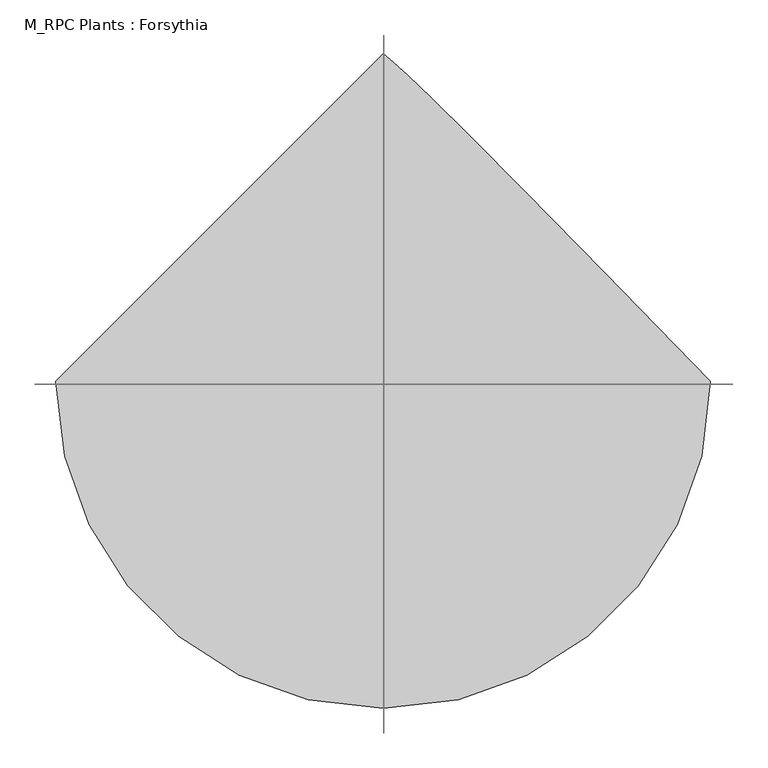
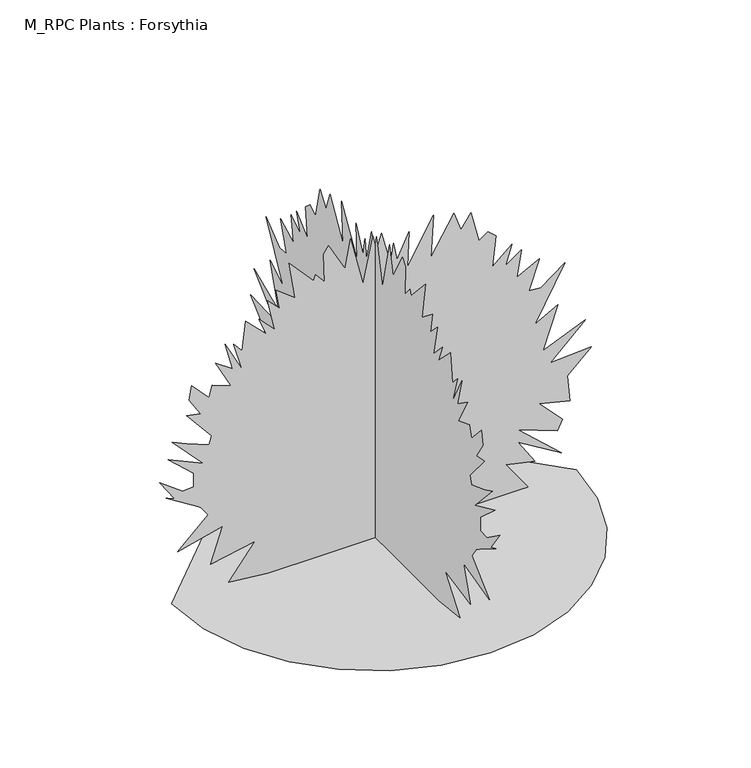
"""IFC4 building model written with IfcOpenShell, lengths in millimetres: proxy geometry, M_RPC Plants : Forsythia."""

from ifc_helpers import new_model, si_unit, origin, place, context, project, spatial, triangles, source, transform, mapped, element, save


def m_rpc_plants_forsythia_3ae10d36(model_context):
    return source(origin(), model_context, "Body", "Tessellation", [
        triangles([(-1519.5040535, 0.0, 0.0002833), (-1479.3336857, -348.1690825, 0.0002833), (-1364.9291862, -667.9078508, 0.0002833), (-1185.447191, -950.0545097, 0.0002833), (-950.0545097, -1185.447191, 0.0002833), (-667.9078508, -1364.9291862, 0.0002833), (-348.1690825, -1479.3336857, 0.0002833), (6.64e-05, -1519.5040535, 0.0002833), (348.1690825, -1479.3336857, 0.0002833), (667.9078508, -1364.9291862, 0.0002833), (950.0545097, -1185.447191, 0.0002833), (1185.447191, -950.0545097, 0.0002833), (1364.9291862, -667.9078508, 0.0002833), (1479.3336857, -348.1690825, 0.0002833), (1519.5040535, 0.0001328, 0.0002833), (1025.698439, 506.5233338, 0.0002833), (659.6172232, 879.4549673, 0.0002833), (399.9699903, 1141.05804, 0.0002833), (225.4722113, 1313.5981625, 0.0002833), (114.8360501, 1419.3438881, 0.0002833), (46.774248, 1480.5555588, 0.0002833), (-0.0001993, 1519.5040535, 0.0002833), (-792.3428427, -13.4822871, 0.037948), (-1099.2418425, -13.4822621, 31.9687972), (-901.0348274, -13.4822871, 287.7194292), (-1233.5117718, -13.4822871, 223.7813261), (-1143.9993576, -13.4822871, 492.3196223), (-1482.8669003, -13.4822871, 409.2003862), (-1252.691415, -13.482312, 620.1937574), (-1310.2352863, -13.482312, 703.3130299), (-1565.9861, -13.482312, 863.1557442), (-1502.0490143, -13.482312, 837.5804157), (-1617.1342861, -13.482312, 1003.8188152), (-1444.505143, -13.482312, 875.9446438), (-1361.3859432, -13.482312, 882.3378582), (-1361.3859432, -13.482312, 991.0299156), (-1553.1972004, -13.4823382, 1163.6615295), (-1291.0531723, -13.4823382, 1042.1805725), (-1521.2286575, -13.4823382, 1291.5383171), (-1412.5366001, -13.4823382, 1240.3875149), (-1246.2982006, -13.4823382, 1176.4505018), (-1227.1160866, -13.4823382, 1240.3875149), (-1412.5366001, -13.4823382, 1464.1673149), (-1310.2352863, -13.4823382, 1444.987817), (-1393.3544861, -13.4823631, 1579.2552029), (-1374.1723721, -13.4823631, 1687.9497311), (-1246.2982006, -13.4823631, 1547.28666), (-1220.7228722, -13.4823631, 1636.7990742), (-1080.0597284, -13.4823631, 1585.6482719), (-1195.147471, -13.4823631, 1803.0374737), (-1067.2732996, -13.4823631, 1713.5250595), (-1124.8171709, -13.4823881, 1930.9116451), (-996.9429995, -13.4823631, 1687.9497311), (-1060.8800852, -13.4823881, 1905.3363167), (-996.9429995, -13.4823631, 1835.0060165), (-971.367671, -13.4823881, 2058.7858166), (-817.9181711, -13.4823881, 1905.3363167), (-869.0663572, -13.4823881, 2039.6061733), (-753.9785419, -13.4823881, 1918.1252163), (-805.1292715, -13.4823881, 2161.0871304), (-715.6167847, -13.4823881, 2071.5747162), (-741.1921858, -13.4823881, 2225.0242161), (-600.5290421, -13.4823881, 2116.3296879), (-645.2865572, -13.4824142, 2404.0490444), (-459.8659347, -13.4823881, 2199.4488876), (-447.0795422, -13.4823881, 2244.2063301), (-379.2689283, -13.4823881, 2162.8804802), (-385.6646862, -13.4824142, 2386.6602802), (-347.290248, -13.4824142, 2438.4078484), (-223.176294, -13.4824142, 2213.9981449), (-182.9654127, -13.4823631, 2435.1743248), (-90.8322191, -13.4823631, 2047.6376598), (-12.3045871, -13.4824142, 2397.6559753), (13.2704245, -13.4823881, 2276.174873), (51.6330312, -13.4824142, 2397.6559753), (115.5706256, -13.4823881, 2135.5118019), (141.1454544, -13.4823881, 2288.9613018), (166.7205467, -13.4823881, 2148.2982307), (256.2334877, -13.4824142, 2340.1119587), (243.445551, -13.4823881, 2065.1815018), (441.6515305, -13.4824142, 2404.0490444), (422.4693801, -13.4823881, 2077.9679306), (595.1010303, -13.4824142, 2365.6874325), (646.2517599, -13.4823881, 2218.6310017), (722.9777452, -13.4824142, 2327.3230591), (780.5216166, -13.4823881, 2084.361145), (850.8519167, -13.4823881, 2129.1185875), (908.395788, -13.4823881, 2077.9679306), (882.8204596, -13.4823631, 1841.399231), (1029.876745, -13.4823881, 1969.2734024), (978.7260881, -13.4823631, 1815.8239025), (1100.2070452, -13.4823881, 1898.9431023), (1068.2385023, -13.4823631, 1694.3429455), (1234.4769745, -13.4823631, 1783.8553596), (1157.7509165, -13.4823631, 1553.6797291), (1247.2634033, -13.4823631, 1547.28666), (1426.2882317, -13.4823631, 1681.5565166), (1202.5084316, -13.4823382, 1272.3560577), (1375.1400455, -13.4823382, 1368.2616863), (1260.0523029, -13.4823382, 1042.1805725), (1579.7377316, -13.4823382, 1176.4505018), (1317.5961742, -13.482312, 927.0928299), (1624.495174, -13.482312, 946.2749439), (1445.4703457, -13.482312, 780.0364717), (1464.6524597, -13.4822871, 575.436315), (1234.4769745, -13.482312, 632.9801863), (1407.1085884, -13.4822871, 447.5621435), (1368.7443604, -13.4822871, 370.838629), (1074.6317167, -13.4822871, 479.5306864), (1400.7129032, -13.4822871, 185.418824), (1074.6317167, -13.4822871, 383.6250578), (1202.5084316, -13.4822871, 185.418824), (985.1193026, -13.4822871, 236.568736), (1151.4898161, -13.4822871, 0.0386752), (19.664159, -13.4822621, 0.0001234), (3.6800653, -809.5031324, 0.0378489), (3.68004, -1116.4046757, 31.9687972), (3.6800653, -918.1977333, 287.7194292), (3.6800653, -1250.6720615, 223.7813261), (3.6800653, -1161.1596474, 492.3196223), (3.6800653, -1500.0298061, 409.2003862), (3.6800653, -1269.8541756, 620.1937574), (3.6800653, -1327.3980469, 703.3130299), (3.6800908, -1583.1463898, 863.1557442), (3.6800908, -1519.209304, 837.5804157), (3.6800908, -1634.2970467, 1003.8188152), (3.6800908, -1461.6654327, 875.9446438), (3.6800908, -1378.5487038, 882.3378582), (3.6800908, -1378.5487038, 991.0299156), (3.6800908, -1570.3599609, 1163.6615295), (3.6800908, -1308.2159328, 1042.1805725), (3.6800908, -1538.3914181, 1291.5383171), (3.6800908, -1429.6968899, 1240.3875149), (3.6800908, -1263.4609612, 1176.4505018), (3.6800908, -1244.2788471, 1240.3875149), (3.6800908, -1429.6968899, 1464.1673149), (3.6800908, -1327.3980469, 1444.987817), (3.6800908, -1410.5172466, 1579.2552029), (3.6801161, -1391.3351326, 1687.9497311), (3.6800908, -1263.4609612, 1547.28666), (3.6800908, -1237.8856327, 1636.7990742), (3.6800908, -1097.2225616, 1585.6508881), (3.6801161, -1212.3103043, 1803.0374737), (3.6800908, -1084.4361328, 1713.5250595), (3.6801161, -1141.9800041, 1930.9116451), (3.6800908, -1014.1032892, 1687.9497311), (3.6801161, -1078.0403749, 1905.3363167), (3.6800908, -1014.1032892, 1835.0060165), (3.6801161, -988.5305042, 2058.7858166), (3.6800908, -835.0784609, 1905.3363167), (3.6801161, -886.2291904, 2039.6061733), (3.6800908, -771.1413752, 1918.1252163), (3.6801161, -822.2921047, 2161.0871304), (3.6801161, -732.7796179, 2071.5747162), (3.6801161, -758.355019, 2225.0242161), (3.6801161, -617.6918753, 2116.3296879), (3.6801161, -662.446847, 2404.0490444), (3.6801161, -477.0287679, 2199.4488876), (3.6801161, -464.2423754, 2244.2063301), (3.6801161, -396.4317616, 2162.8804802), (3.6801161, -402.824976, 2386.6602802), (3.6801161, -364.4530812, 2438.4078484), (3.6801161, -240.3386185, 2213.9981449), (3.6800653, -200.1277554, 2435.1743248), (3.6800653, -107.994798, 2047.640276), (3.6801161, -29.4668878, 2397.6559753), (3.6800908, -3.8919275, 2276.174873), (3.6801161, 34.4707044, 2397.6559753), (3.6800908, 98.408301, 2135.5118019), (3.6800908, 123.9831299, 2288.9613018), (3.6800908, 149.5579678, 2148.3008469), (3.6800908, 239.0706363, 2340.1119587), (3.6800908, 226.2832264, 2065.1815018), (3.6800908, 424.4886972, 2404.0490444), (3.6800908, 405.3090903, 2077.9679306), (3.6800908, 577.9381971, 2365.6874325), (3.6800908, 629.0889267, 2218.6310017), (3.6800908, 705.814912, 2327.3256752), (3.6800908, 763.3587833, 2084.361145), (3.6800908, 833.6890835, 2129.1185875), (3.6800908, 891.2329548, 2077.9679306), (3.6800653, 865.6576263, 1841.399231), (3.6800653, 1012.7139118, 1969.2734024), (3.6800653, 961.5632549, 1815.8239025), (3.6800653, 1083.044212, 1898.9431023), (3.6800653, 1051.0756691, 1694.3429455), (3.6800653, 1217.3141413, 1783.8553596), (3.6800653, 1140.5880833, 1553.6797291), (3.6800653, 1230.1004974, 1547.28666), (3.6800653, 1409.1253258, 1681.5565166), (3.6800653, 1185.3455984, 1272.3560577), (3.6800653, 1357.977285, 1368.2616863), (3.68004, 1242.8895424, 1042.1805725), (3.68004, 1562.5774418, 1176.4505018), (3.68004, 1300.4334137, 927.0928299), (3.68004, 1607.3324135, 946.2749439), (3.68004, 1428.3075851, 780.0364717), (3.68004, 1447.4896992, 575.436315), (3.68004, 1217.3141413, 632.9801863), (3.6800145, 1389.9458279, 447.5621435), (3.6800145, 1351.5840706, 370.838629), (3.68004, 1057.471427, 479.5306864), (3.6800145, 1383.5526134, 185.4185696), (3.68004, 1057.471427, 383.6250578), (3.6800145, 1185.3455984, 185.4185696), (3.6800145, 967.9590128, 236.568736), (3.68004, 1134.3269829, 0.038518), (3.68004, 2.5017556, 0.0)], [[21, 22, 1], [20, 21, 1], [19, 20, 1], [18, 19, 1], [17, 18, 1], [17, 1, 2], [17, 2, 3], [17, 3, 4], [16, 17, 4], [16, 4, 5], [16, 5, 6], [16, 6, 7], [16, 7, 8], [16, 8, 9], [16, 9, 10], [16, 10, 11], [16, 11, 12], [15, 16, 12], [14, 15, 12], [13, 14, 12], [30, 31, 32], [109, 110, 111], [51, 52, 53], [36, 37, 38], [32, 33, 34], [76, 77, 78], [100, 101, 102], [38, 39, 40], [78, 79, 80], [57, 58, 59], [70, 71, 72], [96, 97, 98], [72, 73, 74], [53, 54, 55], [80, 81, 82], [49, 50, 51], [27, 28, 29], [89, 90, 91], [74, 75, 76], [59, 60, 61], [63, 64, 65], [38, 40, 41], [102, 103, 104], [42, 43, 44], [98, 99, 100], [61, 62, 63], [93, 94, 95], [111, 112, 113], [91, 92, 93], [84, 85, 86], [82, 83, 84], [55, 56, 57], [45, 46, 47], [44, 45, 47], [113, 114, 115], [65, 66, 67], [23, 24, 25], [72, 74, 76], [25, 26, 27], [68, 69, 70], [67, 68, 70], [30, 32, 34], [30, 34, 35], [104, 105, 106], [49, 51, 53], [102, 104, 106], [95, 96, 98], [47, 48, 49], [107, 108, 109], [106, 107, 109], [82, 84, 86], [86, 87, 88], [86, 88, 89], [67, 70, 72], [115, 23, 25], [53, 55, 57], [82, 86, 89], [76, 78, 80], [63, 65, 67], [59, 61, 63], [42, 44, 47], [42, 47, 49], [35, 36, 38], [72, 76, 80], [111, 113, 115], [109, 111, 115], [100, 102, 106], [100, 106, 109], [100, 109, 115], [98, 100, 115], [98, 115, 25], [95, 98, 25], [93, 95, 25], [91, 93, 25], [89, 91, 25], [82, 89, 25], [80, 82, 25], [72, 80, 25], [72, 25, 27], [72, 27, 29], [67, 72, 29], [63, 67, 29], [59, 63, 29], [59, 29, 30], [59, 30, 35], [59, 35, 38], [59, 38, 41], [59, 41, 42], [59, 42, 49], [59, 49, 53], [59, 53, 57], [123, 124, 125], [202, 203, 204], [144, 145, 146], [129, 130, 131], [125, 126, 127], [169, 170, 171], [193, 194, 195], [131, 132, 133], [171, 172, 173], [150, 151, 152], [163, 164, 165], [189, 190, 191], [165, 166, 167], [146, 147, 148], [173, 174, 175], [142, 143, 144], [120, 121, 122], [182, 183, 184], [167, 168, 169], [152, 153, 154], [156, 157, 158], [131, 133, 134], [195, 196, 197], [135, 136, 137], [191, 192, 193], [154, 155, 156], [186, 187, 188], [204, 205, 206], [184, 185, 186], [177, 178, 179], [175, 176, 177], [148, 149, 150], [138, 139, 140], [137, 138, 140], [206, 207, 208], [158, 159, 160], [116, 117, 118], [165, 167, 169], [118, 119, 120], [161, 162, 163], [160, 161, 163], [123, 125, 127], [123, 127, 128], [197, 198, 199], [142, 144, 146], [195, 197, 199], [188, 189, 191], [140, 141, 142], [200, 201, 202], [199, 200, 202], [175, 177, 179], [179, 180, 181], [179, 181, 182], [160, 163, 165], [208, 116, 118], [146, 148, 150], [175, 179, 182], [169, 171, 173], [156, 158, 160], [152, 154, 156], [135, 137, 140], [135, 140, 142], [128, 129, 131], [165, 169, 173], [204, 206, 208], [202, 204, 208], [193, 195, 199], [193, 199, 202], [193, 202, 208], [191, 193, 208], [191, 208, 118], [188, 191, 118], [186, 188, 118], [184, 186, 118], [182, 184, 118], [175, 182, 118], [173, 175, 118], [165, 173, 118], [165, 118, 120], [165, 120, 122], [160, 165, 122], [156, 160, 122], [152, 156, 122], [152, 122, 123], [152, 123, 128], [152, 128, 131], [152, 131, 134], [152, 134, 135], [152, 135, 142], [152, 142, 146], [152, 146, 150]], closed=False),
    ])


if __name__ == "__main__":
    model = new_model("IFC4")
    model_context = context("Model", 3, world=origin())
    ifc_project = project(units=[si_unit("LENGTHUNIT", "METRE", prefix="MILLI")], contexts=[model_context])
    site = spatial("IfcSite", under=ifc_project)
    building = spatial("IfcBuilding", under=site)
    placement = place(None, origin())
    m_rpc_plants_forsythia_shape = m_rpc_plants_forsythia_3ae10d36(model_context)
    element("IfcBuildingElementProxy", 1, Name="M_RPC Plants : Forsythia", ObjectType="M_RPC Plants : Forsythia", at=placement, inside=building, context=model_context, shape_type="MappedRepresentation", body=[
        mapped(m_rpc_plants_forsythia_shape, transform((0.0, 0.0, 0.0), x_axis=(1.0, 0.0, 0.0), y_axis=(0.0, 1.0, 0.0), z_axis=(0.0, 0.0, 1.0))),
    ])
    save(model, "model.ifc")
